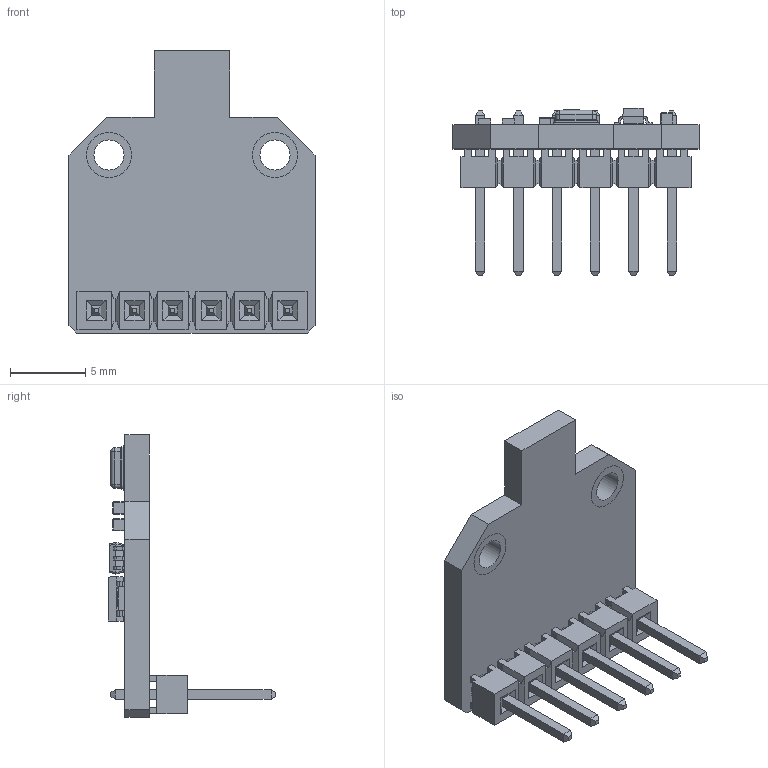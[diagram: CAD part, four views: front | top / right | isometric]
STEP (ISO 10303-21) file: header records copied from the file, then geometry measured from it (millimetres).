
FILE_DESCRIPTION (( 'STEP AP214' ), '1' );
FILE_NAME ('CJMCU-680.STEP', '2019-10-29T23:25:17', ( '' ), ( '' ), 'SwSTEP 2.0', 'SolidWorks 2018', '' );
FILE_SCHEMA (( 'AUTOMOTIVE_DESIGN' ));
Length unit declared in the file: millimetre
Products named in the file (1): CJMCU-680
Bounding box: 16.3 x 11.08 x 18.7 mm (x, y, z)
Volume: 495 mm3; surface area: 1149.5 mm2
Topology: 37 solids, 37 shells, 1397 faces, 3555 edges, 2263 vertices
Faces by surface type: plane 980, bspline 240, cylinder 176, cone 1
Full cylindrical faces by diameter (mm): 0.037 x4, 0.15 x2, 0.35 x2, 0.572 x1, 0.65 x1, 1 x6, 2 x2
Entity records: 58072 total; most frequent: CARTESIAN_POINT 10163, ORIENTED_EDGE 7014, DIRECTION 5749, EDGE_CURVE 3507, LINE 2717, VECTOR 2717, VERTEX_POINT 2262, AXIS2_PLACEMENT_3D 1516
